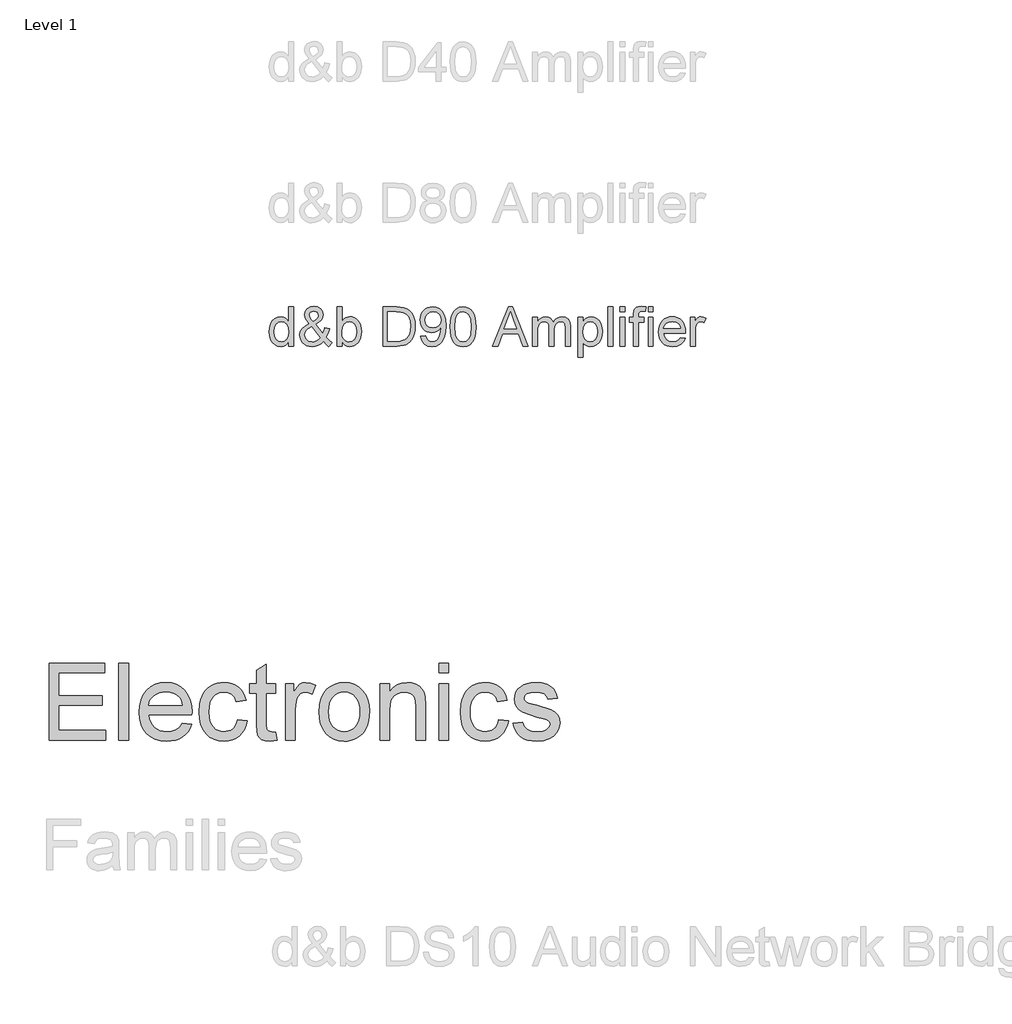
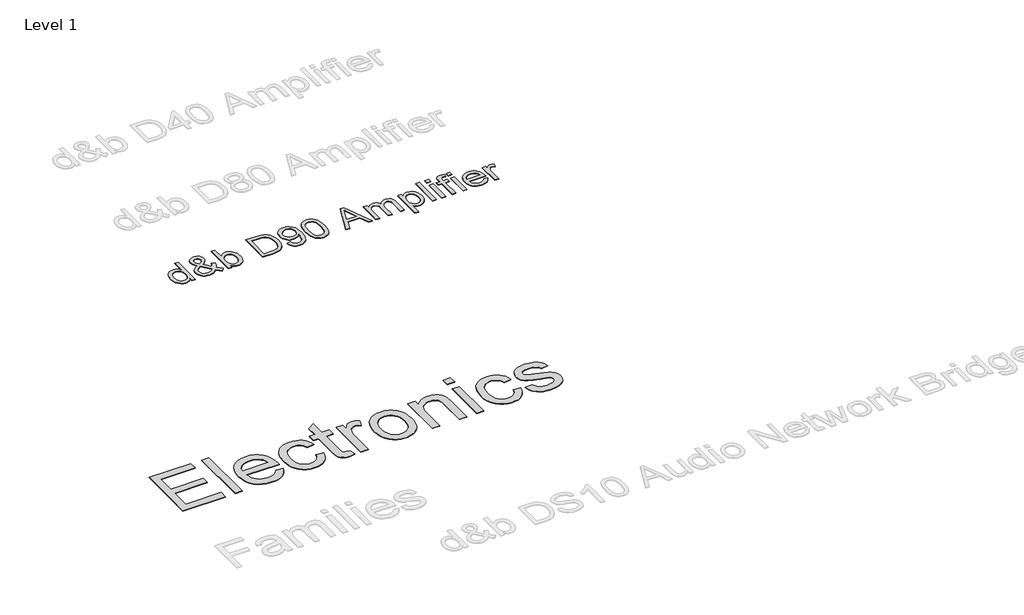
# One storey, part 5 of 14: 2 proxies.
"""IFC4 building model written with IfcOpenShell, lengths in millimetres."""

from ifc_helpers import new_model, si_unit, origin, origin_with_axes, place, context, project, spatial, polyline, outline, extrude, element, save

model = new_model("IFC4")

# Units and contexts
model_context = context("Model", 3, world=origin())
ifc_project = project(units=[si_unit("LENGTHUNIT", "METRE", prefix="MILLI")], contexts=[model_context])

# Site, building, storey
site = spatial("IfcSite", under=ifc_project)
building = spatial("IfcBuilding", under=site)
storey = spatial("IfcBuildingStorey", under=building, Name="Level 1", Elevation=0.0)

# Proxies
placement = place(None, origin())
element("IfcBuildingElementProxy", 1, Name="300mm Arial", ObjectType="300mm Arial", at=placement, inside=storey, context=model_context, shape_type="SweptSolid", body=[
    extrude(outline(polyline([(-19191.0990778, 6233.1412103), (-19191.0990778, 6268.678611), (-19202.3700624, 6251.070859), (-19216.0230829, 6238.4938933), (-19232.0581394, 6230.9477139), (-19250.4752318, 6228.4323207), (-19274.8290199, 6232.0743525), (-19297.1226688, 6243.0004477), (-19315.9950151, 6260.4472513), (-19330.0848956, 6283.6514082), (-19338.8588811, 6311.6748192), (-19341.783543, 6343.5793852), (-19339.0888074, 6375.0884781), (-19331.0046005, 6403.5441504), (-19317.5401195, 6427.3277214), (-19298.7045614, 6444.8205103), (-19275.9234688, 6455.5810586), (-19250.6223846, 6459.1679081), (-19232.1914966, 6456.6019312), (-19215.8943242, 6448.9040004), (-19202.0803553, 6437.1041854), (-19191.0990778, 6422.2325558), (-19191.0990778, 6534.5101407), (-19153.4279615, 6534.5101407), (-19153.4279615, 6233.1412103), (-19191.0990778, 6233.1412103)]), holes=[polyline([(-19304.1124267, 6343.726538), (-19299.8633896, 6309.6514682), (-19287.1162785, 6285.4172418), (-19268.5934201, 6270.9318882), (-19247.017141, 6266.103437), (-19225.4500591, 6270.711159), (-19207.3962502, 6284.534325), (-19195.1733709, 6307.8304523), (-19191.0990778, 6340.8570584), (-19195.2469473, 6376.9646763), (-19207.6905558, 6401.999046), (-19226.2042172, 6416.6223554), (-19248.5622454, 6421.4967918), (-19270.3592536, 6416.8154934), (-19288.2199245, 6402.7715982), (-19300.1393011, 6378.6477364), (-19304.1124267, 6343.726538)])]), origin_with_axes(), (0.0, 0.0, 1.0), 5.0),
    extrude(outline(polyline([(-18924.0903257, 6270.3708682), (-18943.2385835, 6252.0227537), (-18964.0423104, 6238.9169576), (-18986.5382944, 6231.0534799), (-19010.7633237, 6228.4323207), (-19032.744273, 6230.3728982), (-19052.3339892, 6236.1946308), (-19069.5324725, 6245.8975184), (-19084.3397228, 6259.4815611), (-19100.8392303, 6286.2817645), (-19106.3390661, 6316.061812), (-19101.9152851, 6342.4573451), (-19088.6439421, 6366.1673397), (-19066.5802195, 6387.1734016), (-19035.7792994, 6405.4571368), (-19062.0828621, 6443.5697115), (-19068.6679498, 6471.8230487), (-19063.4808136, 6497.2620887), (-19047.9194053, 6519.1326733), (-19024.5037163, 6534.197441), (-18995.7537383, 6539.2190302), (-18968.401712, 6534.4181702), (-18946.5311274, 6520.0155901), (-18932.1837296, 6498.8807695), (-18927.4012636, 6473.8831879), (-18930.9421278, 6452.8955201), (-18941.5647204, 6433.4897448), (-18959.2690415, 6415.6658622), (-18984.0550909, 6399.4238721), (-18929.5349792, 6331.5128558), (-18920.2459588, 6350.918631), (-18913.274595, 6373.230674), (-18875.6034787, 6365.0636937), (-18887.1917616, 6330.1700865), (-18902.2381352, 6303.0387893), (-18880.827403, 6278.0596019), (-18856.7679206, 6257.4214219), (-18885.0212578, 6228.4323207), (-18904.243092, 6246.0170801), (-18924.0903257, 6270.3708682)]), holes=[polyline([(-18949.3270305, 6297.5205594), (-19016.5758593, 6381.4712307), (-19042.2632196, 6365.0820878), (-19057.9625837, 6349.9069555), (-19065.9916083, 6335.4124049), (-19068.6679498, 6321.0650071), (-19065.0075239, 6303.2963067), (-19054.0262464, 6284.8654188), (-19036.3311224, 6270.7939325), (-19012.5291573, 6266.103437), (-18995.4870239, 6268.2923349), (-18977.9114616, 6274.8590285), (-18961.8442154, 6284.902207), (-18949.3270305, 6297.5205594)]), polyline([(-19003.1113782, 6423.189049), (-18983.4112974, 6435.6878398), (-18972.1357142, 6446.5495557), (-18966.8382135, 6457.116966), (-18965.0723799, 6468.73284), (-18967.3992336, 6481.8938183), (-18974.3797944, 6492.3876523), (-18984.8552342, 6499.2578485), (-18997.6667247, 6501.5479139), (-19010.7541267, 6499.2762426), (-19021.4686898, 6492.4612287), (-19028.6147976, 6482.3720649), (-19030.9968335, 6470.2779443), (-19027.7594719, 6456.4823695), (-19017.9738108, 6441.1416903), (-19003.1113782, 6423.189049)])]), origin_with_axes(), (0.0, 0.0, 1.0), 5.0),
    extrude(outline(polyline([(-18781.4256879, 6233.1412103), (-18819.0968043, 6233.1412103), (-18819.0968043, 6534.5101407), (-18781.4256879, 6534.5101407), (-18781.4256879, 6422.7475906), (-18769.0372618, 6438.6814795), (-18755.0485489, 6450.0628287), (-18739.4595493, 6456.8916382), (-18722.2702631, 6459.1679081), (-18702.8644879, 6457.116966), (-18684.5255704, 6450.9641396), (-18668.3019744, 6441.0957051), (-18655.2421636, 6427.8979385), (-18645.0058471, 6411.4995986), (-18637.252734, 6392.029444), (-18632.3691005, 6370.2968151), (-18630.7412227, 6347.1110524), (-18632.4265821, 6320.3568343), (-18637.4826603, 6296.8215836), (-18645.9094572, 6276.5053004), (-18657.706973, 6259.4079847), (-18671.8681305, 6245.8561317), (-18687.3858529, 6236.1762367), (-18704.2601402, 6230.3682997), (-18722.4909923, 6228.4323207), (-18740.2458971, 6230.9293198), (-18755.986648, 6238.4203169), (-18769.7132449, 6250.9053121), (-18781.4256879, 6268.3843054), (-18781.4256879, 6233.1412103)]), holes=[polyline([(-18781.4256879, 6345.3452188), (-18778.850514, 6313.9280964), (-18771.1249921, 6292.6645171), (-18761.9969201, 6281.0440446), (-18751.388123, 6272.743707), (-18739.298601, 6267.7635045), (-18725.7283539, 6266.103437), (-18703.986528, 6270.9962676), (-18685.4084872, 6285.6747592), (-18672.6613761, 6310.0469413), (-18668.412339, 6344.0208436), (-18672.4866321, 6378.4913866), (-18684.7095114, 6402.5876572), (-18702.708138, 6416.7695081), (-18724.1096731, 6421.4967918), (-18745.851499, 6416.6039613), (-18764.4295398, 6401.9254696), (-18777.1766509, 6377.9947459), (-18781.4256879, 6345.3452188)])]), origin_with_axes(), (0.0, 0.0, 1.0), 5.0),
    extrude(outline(polyline([(-18465.9300889, 6233.1412103), (-18465.9300889, 6534.5101407), (-18361.966637, 6534.5101407), (-18308.1822893, 6530.1691332), (-18284.1595951, 6521.7998178), (-18263.8892971, 6508.6112482), (-18243.0487821, 6485.6554117), (-18228.2047436, 6457.1077689), (-18219.3203934, 6423.5201428), (-18216.3589434, 6385.4443563), (-18218.3639002, 6353.0983318), (-18224.3787708, 6324.6334625), (-18233.5390325, 6300.399236), (-18244.9801626, 6280.7451404), (-18258.150338, 6265.2297173), (-18272.4977358, 6253.4115082), (-18288.9696522, 6244.6467197), (-18308.5133831, 6238.2915582), (-18356.9634419, 6233.1412103), (-18465.9300889, 6233.1412103)]), holes=[polyline([(-18428.2589726, 6270.8123266), (-18361.598755, 6270.8123266), (-18334.0259995, 6272.1734899), (-18313.1119081, 6276.2569801), (-18297.3297705, 6282.8236737), (-18285.1528765, 6291.6344475), (-18272.0654745, 6307.9408169), (-18262.2338282, 6329.0480464), (-18256.0810018, 6355.0481064), (-18254.0300597, 6386.0329675), (-18258.0491705, 6427.0885981), (-18270.1065028, 6457.4020745), (-18287.9211885, 6478.2241954), (-18309.2123589, 6490.8057597), (-18330.8806085, 6495.3307082), (-18362.6288246, 6496.8390244), (-18428.2589726, 6496.8390244), (-18428.2589726, 6270.8123266)])]), origin_with_axes(), (0.0, 0.0, 1.0), 5.0),
    extrude(outline(polyline([(-18173.9789375, 6308.4834429), (-18136.3078212, 6313.1923324), (-18129.8698863, 6291.8091914), (-18119.3852494, 6277.2502615), (-18105.111428, 6268.8901431), (-18087.3059394, 6266.103437), (-18071.3306638, 6267.8968618), (-18056.808522, 6273.2771359), (-18044.7419926, 6281.6556484), (-18036.1335539, 6292.4437879), (-18023.8095071, 6325.1852854), (-18018.3648535, 6368.8896665), (-18018.5855827, 6376.2473064), (-18031.6361965, 6360.318016), (-18048.7151182, 6347.6996636), (-18068.5899429, 6339.477501), (-18090.0282662, 6336.7367801), (-18107.923426, 6338.4106432), (-18124.3792475, 6343.4322324), (-18139.3957307, 6351.8015478), (-18152.9728756, 6363.5185893), (-18164.2231668, 6377.9717532), (-18172.2590892, 6394.5494356), (-18177.0806426, 6413.2516366), (-18178.687827, 6434.078356), (-18177.0024677, 6455.5994527), (-18171.9463895, 6474.9132575), (-18163.5195925, 6492.0197703), (-18151.7220768, 6506.9189911), (-18137.3861753, 6518.990119), (-18121.344221, 6527.6123533), (-18103.596214, 6532.7856939), (-18084.1421543, 6534.5101407), (-18056.0451669, 6530.5738034), (-18030.4681712, 6518.7647913), (-18009.0758332, 6499.6717158), (-17993.5328189, 6473.8831879), (-17984.0690545, 6438.2354226), (-17980.9144664, 6389.5646346), (-17984.0598575, 6337.9599877), (-17993.4960307, 6298.0723824), (-18009.1402125, 6268.0991968), (-18030.9096296, 6246.2378093), (-18057.8661828, 6232.8836929), (-18089.071773, 6228.4323207), (-18121.2798417, 6233.6838362), (-18146.9763991, 6249.4383826), (-18164.9474345, 6274.7026787), (-18173.9789375, 6308.4834429)]), holes=[polyline([(-18018.5855827, 6434.9612728), (-18022.6506788, 6460.4922833), (-18034.8459669, 6480.1371818), (-18053.7734956, 6492.6635638), (-18078.0353132, 6496.8390244), (-18103.1984416, 6492.341667), (-18123.358375, 6478.8495948), (-18136.6021268, 6458.2022179), (-18141.0167107, 6432.238946), (-18136.8412501, 6408.9612128), (-18124.3148682, 6390.4843396), (-18104.6515755, 6378.4270072), (-18079.0653828, 6374.4078964), (-18054.9967032, 6378.4270072), (-18035.6185191, 6390.4843396), (-18022.8438168, 6409.6417945), (-18018.5855827, 6434.9612728)])]), origin_with_axes(), (0.0, 0.0, 1.0), 5.0),
    extrude(outline(polyline([(-17947.9522397, 6381.3976543), (-17945.1839277, 6429.6361809), (-17936.8789916, 6468.1074406), (-17923.120205, 6497.4000444), (-17903.9903412, 6518.1026037), (-17879.3514446, 6530.4082565), (-17849.0655594, 6534.5101407), (-17825.8522055, 6532.0821195), (-17805.0668727, 6524.798056), (-17787.6844485, 6512.9430587), (-17774.6798199, 6496.8022362), (-17764.8573707, 6476.5135442), (-17757.0214842, 6452.2149384), (-17751.8895303, 6421.358836), (-17750.1788791, 6381.3976543), (-17752.9195999, 6333.4350392), (-17761.1417625, 6295.05575), (-17774.8177757, 6265.735555), (-17793.9200483, 6244.9502223), (-17818.6141272, 6232.5617961), (-17849.0655594, 6228.4323207), (-17869.8141039, 6230.2257454), (-17888.2082037, 6235.6060196), (-17904.2478586, 6244.5731433), (-17917.9330689, 6257.1271163), (-17931.0664561, 6279.8208369), (-17940.447447, 6308.0971668), (-17946.0760415, 6341.9561059), (-17947.9522397, 6381.3976543)]), holes=[polyline([(-17910.2811234, 6381.4712307), (-17905.8665394, 6322.2146383), (-17900.3483095, 6301.9466397), (-17892.6227876, 6287.9188393), (-17872.9043127, 6271.5572876), (-17849.0655594, 6266.103437), (-17825.2268061, 6271.5756817), (-17805.5083311, 6287.9924157), (-17797.7828092, 6302.0432087), (-17792.2645793, 6322.3066088), (-17787.8499954, 6381.4712307), (-17792.1174265, 6439.3942509), (-17797.4517154, 6459.5955709), (-17804.9197199, 6473.9567643), (-17824.6014067, 6491.1184594), (-17849.5070178, 6496.8390244), (-17873.0882537, 6491.7990411), (-17892.0341764, 6476.6790911), (-17900.0172157, 6461.0441063), (-17905.7193866, 6439.9644679), (-17910.2811234, 6381.4712307)])]), origin_with_axes(), (0.0, 0.0, 1.0), 5.0),
    extrude(outline(polyline([(-17620.3901112, 6233.1412103), (-17500.0926987, 6534.5101407), (-17468.0133888, 6534.5101407), (-17347.7895527, 6233.1412103), (-17387.5943846, 6233.1412103), (-17422.0281394, 6327.319001), (-17546.2251009, 6327.319001), (-17580.6588557, 6233.1412103), (-17620.3901112, 6233.1412103)]), holes=[polyline([(-17532.3927379, 6364.9901173), (-17435.786926, 6364.9901173), (-17463.0101936, 6439.0815512), (-17484.1266202, 6496.8390244), (-17502.8886019, 6445.5562743), (-17532.3927379, 6364.9901173)])]), origin_with_axes(), (0.0, 0.0, 1.0), 5.0),
    extrude(outline(polyline([(-17312.252152, 6233.1412103), (-17312.252152, 6454.4590186), (-17274.5810357, 6454.4590186), (-17274.5810357, 6418.038701), (-17263.2502702, 6434.7681348), (-17248.6821432, 6447.8739308), (-17231.3732954, 6456.3444138), (-17211.8203673, 6459.1679081), (-17190.8694877, 6456.2892315), (-17174.0756746, 6447.6532016), (-17161.5308986, 6433.8300357), (-17153.3271301, 6415.3899507), (-17139.5959346, 6434.542807), (-17123.9333587, 6448.2234187), (-17106.3394023, 6456.4317858), (-17086.8140654, 6459.1679081), (-17058.4963488, 6454.6153684), (-17037.5546662, 6440.9577493), (-17024.614417, 6417.8271689), (-17020.3010006, 6384.8557451), (-17020.3010006, 6233.1412103), (-17057.9721169, 6233.1412103), (-17057.9721169, 6368.6689373), (-17061.4669959, 6400.1228479), (-17066.3782205, 6408.7956659), (-17074.1221365, 6415.6106799), (-17084.0825415, 6420.0252638), (-17095.6432332, 6421.4967918), (-17116.0514869, 6417.7260013), (-17132.6889502, 6406.41363), (-17143.7530012, 6386.7871255), (-17147.4410182, 6358.0739358), (-17147.4410182, 6233.1412103), (-17185.1121345, 6233.1412103), (-17185.1121345, 6372.862792), (-17187.2918353, 6394.1631595), (-17193.8309378, 6409.3566859), (-17205.3364472, 6418.4617653), (-17222.4153688, 6421.4967918), (-17236.9283135, 6419.4734408), (-17250.300824, 6413.4033879), (-17261.3372839, 6403.4337858), (-17268.8420766, 6389.7117874), (-17273.1462959, 6370.6738942), (-17274.5810357, 6344.7566076), (-17274.5810357, 6233.1412103), (-17312.252152, 6233.1412103)])), origin_with_axes(), (0.0, 0.0, 1.0), 5.0),
    extrude(outline(polyline([(-16963.7943262, 6148.3811986), (-16963.7943262, 6454.4590186), (-16926.1232099, 6454.4590186), (-16926.1232099, 6417.5236662), (-16913.8359512, 6435.743022), (-16900.0771646, 6448.7568476), (-16884.0375096, 6456.565143), (-16864.9076459, 6459.1679081), (-16839.4318177, 6455.5258763), (-16817.1565629, 6444.5997811), (-16799.0199805, 6427.0518099), (-16785.9601697, 6403.5441504), (-16778.0691009, 6375.7874539), (-16775.4387446, 6345.4923716), (-16778.4093918, 6313.2751059), (-16787.3213331, 6284.4607486), (-16801.8894601, 6260.5116307), (-16821.8286642, 6242.8900831), (-16845.0512152, 6232.0467613), (-16869.4693826, 6228.4323207), (-16886.7874275, 6230.8511448), (-16902.2476684, 6238.1076172), (-16915.4822232, 6249.0613036), (-16926.1232099, 6262.5717699), (-16926.1232099, 6148.3811986), (-16963.7943262, 6148.3811986)]), holes=[polyline([(-16926.1232099, 6342.0342808), (-16922.0489168, 6308.2627137), (-16909.8260375, 6284.6446896), (-16891.7906227, 6270.7387502), (-16870.278723, 6266.103437), (-16848.4173354, 6270.9042971), (-16829.9220681, 6285.3068772), (-16817.3129127, 6309.789424), (-16813.109861, 6344.830184), (-16817.2117452, 6378.4178102), (-16829.5173979, 6402.366928), (-16847.5252216, 6416.7143258), (-16868.7336186, 6421.4967918), (-16890.0247891, 6416.4108232), (-16908.7223915, 6401.1529175), (-16921.7730053, 6376.2013211), (-16926.1232099, 6342.0342808)])]), origin_with_axes(), (0.0, 0.0, 1.0), 5.0),
    extrude(outline(polyline([(-16733.0587388, 6233.1412103), (-16733.0587388, 6534.5101407), (-16695.3876225, 6534.5101407), (-16695.3876225, 6233.1412103), (-16733.0587388, 6233.1412103)])), origin_with_axes(), (0.0, 0.0, 1.0), 5.0),
    extrude(outline(polyline([(-16638.880948, 6233.1412103), (-16638.880948, 6454.4590186), (-16601.2098317, 6454.4590186), (-16601.2098317, 6233.1412103), (-16638.880948, 6233.1412103)])), origin_with_axes(), (0.0, 0.0, 1.0), 5.0),
    extrude(outline(polyline([(-16638.880948, 6496.8390244), (-16638.880948, 6534.5101407), (-16601.2098317, 6534.5101407), (-16601.2098317, 6496.8390244), (-16638.880948, 6496.8390244)])), origin_with_axes(), (0.0, 0.0, 1.0), 5.0),
    extrude(outline(polyline([(-16535.2853782, 6233.1412103), (-16535.2853782, 6416.7879022), (-16568.247605, 6416.7879022), (-16568.247605, 6454.4590186), (-16535.2853782, 6454.4590186), (-16535.2853782, 6476.7526675), (-16531.3122526, 6508.1697898), (-16523.7338835, 6520.6961718), (-16512.0352361, 6530.6105916), (-16495.6644873, 6537.0669206), (-16474.0698142, 6539.2190302), (-16439.7096358, 6535.0987519), (-16445.2278658, 6499.7820804), (-16466.9329035, 6501.5479139), (-16481.2527102, 6499.9844155), (-16490.6612922, 6495.29392), (-16495.8760195, 6486.3359934), (-16497.6142619, 6471.9702015), (-16497.6142619, 6454.4590186), (-16455.234256, 6454.4590186), (-16455.234256, 6416.7879022), (-16497.6142619, 6416.7879022), (-16497.6142619, 6233.1412103), (-16535.2853782, 6233.1412103)])), origin_with_axes(), (0.0, 0.0, 1.0), 5.0),
    extrude(outline(polyline([(-16422.2720293, 6233.1412103), (-16422.2720293, 6454.4590186), (-16384.600913, 6454.4590186), (-16384.600913, 6233.1412103), (-16422.2720293, 6233.1412103)])), origin_with_axes(), (0.0, 0.0, 1.0), 5.0),
    extrude(outline(polyline([(-16422.2720293, 6496.8390244), (-16422.2720293, 6534.5101407), (-16384.600913, 6534.5101407), (-16384.600913, 6496.8390244), (-16422.2720293, 6496.8390244)])), origin_with_axes(), (0.0, 0.0, 1.0), 5.0),
    extrude(outline(polyline([(-16173.1423421, 6299.0656638), (-16136.2069898, 6294.3567743), (-16149.515121, 6266.5265013), (-16170.7511092, 6245.7227745), (-16199.4367077, 6232.7549342), (-16235.0936701, 6228.4323207), (-16258.4679724, 6230.2970226), (-16279.2946919, 6235.8911282), (-16297.5738285, 6245.2146375), (-16313.3053823, 6258.2675505), (-16325.9559244, 6274.6865838), (-16334.9920259, 6294.1084539), (-16340.4136868, 6316.5331608), (-16342.2209071, 6341.9607044), (-16340.3952927, 6368.2504715), (-16334.9184495, 6391.4224387), (-16325.7903775, 6411.4766059), (-16313.0110767, 6428.4129733), (-16297.3209096, 6441.8682573), (-16279.4602387, 6451.4791744), (-16259.4290641, 6457.2457247), (-16237.2273857, 6459.1679081), (-16215.7407779, 6457.2503232), (-16196.3097108, 6451.4975685), (-16178.9341843, 6441.909644), (-16163.6141985, 6428.4865497), (-16151.1085099, 6411.5869705), (-16142.1758752, 6391.5695915), (-16136.8162944, 6368.4344125), (-16135.0297674, 6342.1814336), (-16135.2504966, 6332.0278906), (-16304.5497908, 6332.0278906), (-16298.0290825, 6303.8297356), (-16282.8815413, 6283.0995852), (-16261.0201537, 6270.3524741), (-16234.3579061, 6266.103437), (-16214.3083374, 6268.0716057), (-16197.4225538, 6273.9761117), (-16183.7005554, 6284.1848371), (-16173.1423421, 6299.0656638)]), holes=[polyline([(-16304.5497908, 6369.6990069), (-16172.7008837, 6369.6990069), (-16177.7960494, 6389.6014228), (-16187.7840455, 6403.838456), (-16209.7466007, 6417.0822078), (-16237.3745385, 6421.4967918), (-16262.7675932, 6417.9743217), (-16283.7644581, 6407.4069114), (-16298.3601763, 6390.934995), (-16304.5497908, 6369.6990069)])]), origin_with_axes(), (0.0, 0.0, 1.0), 5.0),
    extrude(outline(polyline([(-16097.3586511, 6233.1412103), (-16097.3586511, 6454.4590186), (-16064.3964244, 6454.4590186), (-16064.3964244, 6421.717521), (-16052.2195303, 6440.7002319), (-16040.9991295, 6451.8838446), (-16029.7419404, 6457.3468922), (-16017.4546818, 6459.1679081), (-15998.6927, 6456.2616403), (-15979.6364127, 6447.542837), (-15992.2179769, 6413.7712699), (-16005.4617287, 6419.5654113), (-16018.7054806, 6421.4967918), (-16029.9534726, 6419.6389877), (-16040.0058481, 6414.0655755), (-16048.1268431, 6405.1996194), (-16053.5806937, 6393.4641838), (-16058.1608245, 6372.4213336), (-16059.6875348, 6349.4654971), (-16059.6875348, 6233.1412103), (-16097.3586511, 6233.1412103)])), origin_with_axes(), (0.0, 0.0, 1.0), 5.0),
])
element("IfcBuildingElementProxy", 2, Name="600mm Arial", ObjectType="600mm Arial", at=placement, inside=storey, context=model_context, shape_type="SweptSolid", body=[
    extrude(outline(polyline([(-21034.9539913, 3200.0884774), (-21034.9539913, 3790.8577082), (-20610.3386067, 3790.8577082), (-20610.3386067, 3717.0115544), (-20961.1078374, 3717.0115544), (-20961.1078374, 3541.626939), (-20628.8001451, 3541.626939), (-20628.8001451, 3467.7807851), (-20961.1078374, 3467.7807851), (-20961.1078374, 3273.9346313), (-20601.1078374, 3273.9346313), (-20601.1078374, 3200.0884774), (-21034.9539913, 3200.0884774)])), origin_with_axes(), (0.0, 0.0, 1.0), 5.0),
    extrude(outline(polyline([(-20499.5693759, 3200.0884774), (-20499.5693759, 3790.8577082), (-20425.723222, 3790.8577082), (-20425.723222, 3200.0884774), (-20499.5693759, 3200.0884774)])), origin_with_axes(), (0.0, 0.0, 1.0), 5.0),
    extrude(outline(polyline([(-20011.2039913, 3329.3192467), (-19938.8001451, 3320.0884774), (-19949.9014071, 3291.0890784), (-19964.8878855, 3265.533189), (-19983.7595802, 3243.4208092), (-20006.5164913, 3224.751939), (-20032.9242437, 3209.923213), (-20062.7484624, 3199.3312659), (-20095.9891475, 3192.9760976), (-20132.646299, 3190.8577082), (-20178.4666115, 3194.5130568), (-20219.2929336, 3205.4791024), (-20255.1252653, 3223.7558452), (-20285.9636067, 3249.3432851), (-20310.7622845, 3281.5292827), (-20328.4756259, 3319.6016986), (-20339.1036307, 3363.5605327), (-20342.646299, 3413.4057851), (-20339.067573, 3464.9412419), (-20328.3313951, 3510.3649197), (-20310.4377653, 3549.6768188), (-20285.3866836, 3582.876939), (-20254.629472, 3609.2531409), (-20219.6174528, 3628.0932851), (-20180.3506259, 3639.3973717), (-20136.8289913, 3643.1654005), (-20094.7090994, 3639.4063861), (-20056.6186547, 3628.1293428), (-20022.5576571, 3609.3342707), (-19992.5261067, 3583.0211697), (-19968.0113831, 3549.8931649), (-19950.5008663, 3510.6533813), (-19939.9945562, 3465.3018188), (-19936.4924528, 3413.8384774), (-19936.9251451, 3393.9346313), (-20268.8001451, 3393.9346313), (-20264.5228014, 3364.4664822), (-20256.0176932, 3338.658189), (-20243.2848206, 3316.5097515), (-20226.3241836, 3298.0211697), (-20206.0732821, 3283.4448476), (-20183.4696163, 3273.033189), (-20158.513186, 3266.7861938), (-20131.2039913, 3264.703862), (-20091.9011067, 3268.5620351), (-20058.8001451, 3280.1365544), (-20031.9011067, 3300.1485736), (-20011.2039913, 3329.3192467)]), holes=[polyline([(-20268.8001451, 3467.7807851), (-20010.3386067, 3467.7807851), (-20020.3265874, 3506.7952082), (-20028.9173326, 3522.1377563), (-20039.9059143, 3534.703862), (-20060.0441355, 3549.8480928), (-20082.958799, 3560.6654005), (-20108.6499047, 3567.1557851), (-20137.1174528, 3569.3192467), (-20163.0834985, 3567.5929846), (-20186.895097, 3562.4141986), (-20208.5522485, 3553.7828885), (-20228.0549528, 3541.6990544), (-20244.4206379, 3526.7215904), (-20256.6667317, 3509.4093909), (-20264.7932341, 3489.7624558), (-20268.8001451, 3467.7807851)])]), origin_with_axes(), (0.0, 0.0, 1.0), 5.0),
    extrude(outline(polyline([(-19585.723222, 3357.0115544), (-19511.8770682, 3347.7807851), (-19519.9089192, 3312.9355327), (-19532.4660105, 3282.1016986), (-19549.5483422, 3255.2792827), (-19571.1559143, 3232.4682851), (-19596.3782701, 3214.2636577), (-19624.3049528, 3201.2603524), (-19654.9359624, 3193.4583693), (-19688.271299, 3190.8577082), (-19729.6880658, 3194.4860135), (-19766.8229817, 3205.3709294), (-19799.6760466, 3223.5124558), (-19828.2472605, 3248.9105928), (-19851.3737629, 3281.087576), (-19867.8926932, 3319.5656409), (-19877.8040514, 3364.3447875), (-19881.1078374, 3415.4250159), (-19875.4648086, 3481.1401601), (-19868.4110225, 3510.711975), (-19858.535722, 3538.0932851), (-19845.771299, 3562.7342106), (-19830.0501451, 3584.0848717), (-19811.3722605, 3602.1452683), (-19789.7376451, 3616.9154005), (-19766.1243639, 3628.3997755), (-19741.5104817, 3636.6029005), (-19715.8959985, 3641.5247755), (-19689.2809143, 3643.1654005), (-19656.5179937, 3640.9117947), (-19626.8830778, 3634.1509774), (-19600.3761667, 3622.8829486), (-19576.9972605, 3607.1077082), (-19557.1429937, 3587.1858332), (-19541.2100009, 3563.4779005), (-19529.1982821, 3535.9839101), (-19521.1078374, 3504.703862), (-19594.9539913, 3495.4730928), (-19608.349424, 3527.6906409), (-19629.208799, 3550.7855928), (-19656.3782701, 3564.6858332), (-19688.7039913, 3569.3192467), (-19713.7956379, 3567.0385976), (-19736.426347, 3560.1966505), (-19756.5961187, 3548.7934053), (-19774.3049528, 3532.828862), (-19788.7235225, 3511.9334294), (-19799.0225009, 3485.7375159), (-19805.2018879, 3454.2411217), (-19807.2616836, 3417.4442467), (-19805.24696, 3380.0929846), (-19799.2027893, 3348.2315063), (-19789.1291716, 3321.8598116), (-19775.0261067, 3300.9779005), (-19757.668835, 3285.1080087), (-19737.832597, 3273.7723717), (-19715.5173927, 3266.9709895), (-19690.723222, 3264.703862), (-19652.4840393, 3270.3649197), (-19635.9470802, 3277.4412419), (-19621.1318759, 3287.3480928), (-19608.4530898, 3300.1936457), (-19598.3253855, 3316.0860736), (-19590.7487629, 3335.0253765), (-19585.723222, 3357.0115544)])), origin_with_axes(), (0.0, 0.0, 1.0), 5.0),
    extrude(outline(polyline([(-19290.3386067, 3261.6750159), (-19281.1078374, 3197.9250159), (-19336.348222, 3190.8577082), (-19371.7929336, 3193.922612), (-19398.223222, 3203.1173236), (-19416.9011067, 3217.2879967), (-19429.0886067, 3235.2807851), (-19435.7953374, 3266.1822274), (-19438.0309143, 3319.078862), (-19438.0309143, 3560.0884774), (-19493.4155297, 3560.0884774), (-19493.4155297, 3633.9346313), (-19438.0309143, 3633.9346313), (-19438.0309143, 3739.3673236), (-19364.1847605, 3782.7807851), (-19364.1847605, 3633.9346313), (-19290.3386067, 3633.9346313), (-19290.3386067, 3560.0884774), (-19364.1847605, 3560.0884774), (-19364.1847605, 3321.2423236), (-19360.2905297, 3283.1654005), (-19347.6703374, 3269.6798236), (-19337.0152893, 3265.9478524), (-19322.5020682, 3264.703862), (-19290.3386067, 3261.6750159)])), origin_with_axes(), (0.0, 0.0, 1.0), 5.0),
    extrude(outline(polyline([(-19216.4924528, 3200.0884774), (-19216.4924528, 3633.9346313), (-19151.8770682, 3633.9346313), (-19151.8770682, 3569.751939), (-19128.0068759, 3606.9634774), (-19106.0116836, 3628.8865544), (-19083.9443759, 3639.595689), (-19059.8578374, 3643.1654005), (-19023.0789913, 3637.4682851), (-18985.723222, 3620.376939), (-19010.3866836, 3554.1750159), (-19036.348222, 3565.533189), (-19062.3097605, 3569.3192467), (-19084.3590393, 3565.6774197), (-19104.0645682, 3554.751939), (-19119.9840393, 3537.3721313), (-19130.6751451, 3514.3673236), (-19139.6535105, 3473.1173236), (-19142.646299, 3428.1173236), (-19142.646299, 3200.0884774), (-19216.4924528, 3200.0884774)])), origin_with_axes(), (0.0, 0.0, 1.0), 5.0),
    extrude(outline(polyline([(-18958.0309143, 3417.0115544), (-18954.0375249, 3473.1984534), (-18942.0573567, 3521.6149197), (-18922.0904095, 3562.2609534), (-18894.1366836, 3595.1365544), (-18865.9936547, 3616.1491745), (-18834.9299528, 3631.158189), (-18800.9455778, 3640.1635976), (-18764.0405297, 3643.1654005), (-18723.2998446, 3639.510052), (-18686.4624047, 3628.5440063), (-18653.52821, 3610.2672635), (-18624.4972605, 3584.6798236), (-18600.8028494, 3552.6470712), (-18583.8782701, 3515.0343909), (-18573.7235225, 3471.8417827), (-18570.3386067, 3423.0692467), (-18571.8350009, 3383.5410015), (-18576.3241836, 3348.4658813), (-18583.8061547, 3317.8438861), (-18594.2809143, 3291.6750159), (-18607.6177533, 3269.07135), (-18623.6859624, 3249.1449678), (-18642.4855417, 3231.8958693), (-18664.0164913, 3217.3240544), (-18687.4404696, 3205.7450279), (-18711.9191355, 3197.4742947), (-18737.4524889, 3192.5118548), (-18764.0405297, 3190.8577082), (-18805.3761667, 3194.4995351), (-18842.5561547, 3205.4250159), (-18875.5804937, 3223.6341505), (-18904.4491836, 3249.126939), (-18927.8911908, 3281.470689), (-18944.6354817, 3320.2327082), (-18954.6820562, 3365.4129967), (-18958.0309143, 3417.0115544)]), holes=[polyline([(-18884.1847605, 3417.1557851), (-18882.0483422, 3381.336975), (-18875.6390874, 3350.3228524), (-18864.9569961, 3324.1134173), (-18850.0020682, 3302.7086697), (-18831.8109624, 3286.0815664), (-18811.4203374, 3274.205064), (-18788.8301932, 3267.0791625), (-18764.0405297, 3264.703862), (-18739.3770682, 3267.0926842), (-18716.8770682, 3274.2591505), (-18696.5405297, 3286.2032611), (-18678.3674528, 3302.9250159), (-18663.4125249, 3324.5416024), (-18652.7304336, 3351.1702082), (-18646.3211788, 3382.8108332), (-18644.1847605, 3419.4634774), (-18646.3347004, 3454.1464702), (-18652.7845201, 3484.3492947), (-18663.5342196, 3510.071951), (-18678.583799, 3531.314439), (-18696.8244841, 3547.9415423), (-18717.1475009, 3559.8180447), (-18739.5528494, 3566.9439462), (-18764.0405297, 3569.3192467), (-18788.8301932, 3566.9529606), (-18811.4203374, 3559.8541024), (-18831.8109624, 3548.0226721), (-18850.0020682, 3531.4586697), (-18864.9569961, 3510.1170231), (-18875.6390874, 3483.9526601), (-18882.0483422, 3452.9655808), (-18884.1847605, 3417.1557851)])]), origin_with_axes(), (0.0, 0.0, 1.0), 5.0),
    extrude(outline(polyline([(-18487.2616836, 3200.0884774), (-18487.2616836, 3633.9346313), (-18413.4155297, 3633.9346313), (-18413.4155297, 3573.3577082), (-18387.7604817, 3603.8985736), (-18356.9491836, 3625.7134774), (-18320.9816355, 3638.8024197), (-18279.8578374, 3643.1654005), (-18243.457597, 3639.6497755), (-18210.1222605, 3629.1029005), (-18182.3217797, 3612.8408813), (-18162.5261067, 3592.1798236), (-18149.0946163, 3567.173814), (-18140.3866836, 3537.876939), (-18136.4924528, 3466.4827082), (-18136.4924528, 3200.0884774), (-18210.3386067, 3200.0884774), (-18210.3386067, 3456.5307851), (-18212.4660105, 3494.7158813), (-18218.848222, 3521.8673236), (-18230.6210586, 3541.3204486), (-18248.9203374, 3556.4105928), (-18272.3758663, 3566.0920832), (-18299.6174528, 3569.3192467), (-18322.0408302, 3567.5073476), (-18342.8686547, 3562.0716505), (-18362.1009264, 3553.0121553), (-18379.7376451, 3540.328862), (-18394.4717196, 3522.579463), (-18404.9960586, 3498.3216505), (-18411.3106619, 3467.5554245), (-18413.4155297, 3430.2807851), (-18413.4155297, 3200.0884774), (-18487.2616836, 3200.0884774)])), origin_with_axes(), (0.0, 0.0, 1.0), 5.0),
    extrude(outline(polyline([(-18034.9539913, 3717.0115544), (-18034.9539913, 3790.8577082), (-17961.1078374, 3790.8577082), (-17961.1078374, 3717.0115544), (-18034.9539913, 3717.0115544)])), origin_with_axes(), (0.0, 0.0, 1.0), 5.0),
    extrude(outline(polyline([(-18034.9539913, 3200.0884774), (-18034.9539913, 3633.9346313), (-17961.1078374, 3633.9346313), (-17961.1078374, 3200.0884774), (-18034.9539913, 3200.0884774)])), origin_with_axes(), (0.0, 0.0, 1.0), 5.0),
    extrude(outline(polyline([(-17573.4155297, 3357.0115544), (-17499.5693759, 3347.7807851), (-17507.6012268, 3312.9355327), (-17520.1583182, 3282.1016986), (-17537.2406499, 3255.2792827), (-17558.848222, 3232.4682851), (-17584.0705778, 3214.2636577), (-17611.9972605, 3201.2603524), (-17642.6282701, 3193.4583693), (-17675.9636067, 3190.8577082), (-17717.3803735, 3194.4860135), (-17754.5152893, 3205.3709294), (-17787.3683542, 3223.5124558), (-17815.9395682, 3248.9105928), (-17839.0660706, 3281.087576), (-17855.5850009, 3319.5656409), (-17865.4963591, 3364.3447875), (-17868.8001451, 3415.4250159), (-17863.1571163, 3481.1401601), (-17856.1033302, 3510.711975), (-17846.2280297, 3538.0932851), (-17833.4636067, 3562.7342106), (-17817.7424528, 3584.0848717), (-17799.0645682, 3602.1452683), (-17777.4299528, 3616.9154005), (-17753.8166716, 3628.3997755), (-17729.2027893, 3636.6029005), (-17703.5883062, 3641.5247755), (-17676.973222, 3643.1654005), (-17644.2103014, 3640.9117947), (-17614.5753855, 3634.1509774), (-17588.0684744, 3622.8829486), (-17564.6895682, 3607.1077082), (-17544.8353014, 3587.1858332), (-17528.9023086, 3563.4779005), (-17516.8905898, 3535.9839101), (-17508.8001451, 3504.703862), (-17582.646299, 3495.4730928), (-17596.0417317, 3527.6906409), (-17616.9011067, 3550.7855928), (-17644.0705778, 3564.6858332), (-17676.396299, 3569.3192467), (-17701.4879456, 3567.0385976), (-17724.1186547, 3560.1966505), (-17744.2884264, 3548.7934053), (-17761.9972605, 3532.828862), (-17776.4158302, 3511.9334294), (-17786.7148086, 3485.7375159), (-17792.8941956, 3454.2411217), (-17794.9539913, 3417.4442467), (-17792.9392677, 3380.0929846), (-17786.895097, 3348.2315063), (-17776.8214792, 3321.8598116), (-17762.7184143, 3300.9779005), (-17745.3611427, 3285.1080087), (-17725.5249047, 3273.7723717), (-17703.2097004, 3266.9709895), (-17678.4155297, 3264.703862), (-17640.176347, 3270.3649197), (-17623.6393879, 3277.4412419), (-17608.8241836, 3287.3480928), (-17596.1453975, 3300.1936457), (-17586.0176932, 3316.0860736), (-17578.4410706, 3335.0253765), (-17573.4155297, 3357.0115544)])), origin_with_axes(), (0.0, 0.0, 1.0), 5.0),
    extrude(outline(polyline([(-17462.646299, 3329.3192467), (-17388.8001451, 3338.5500159), (-17384.3380057, 3321.7110736), (-17377.1535105, 3306.9634774), (-17367.2466595, 3294.3072274), (-17354.6174528, 3283.7423236), (-17339.2298326, 3275.4129967), (-17321.0477413, 3269.4634774), (-17276.3001451, 3264.703862), (-17232.0934143, 3269.0668428), (-17214.911924, 3274.5205688), (-17201.0116836, 3282.1557851), (-17182.6222605, 3301.1221313), (-17176.4924528, 3323.1173236), (-17178.0339192, 3333.0872755), (-17182.6583182, 3341.939439), (-17201.1559143, 3356.2904005), (-17228.8121643, 3365.6654005), (-17277.1655297, 3377.3480928), (-17344.5573567, 3396.8372755), (-17388.3674528, 3413.4779005), (-17416.5104817, 3431.6329486), (-17436.9011067, 3455.6654005), (-17449.286924, 3484.0428044), (-17453.4155297, 3515.2327082), (-17450.098222, 3543.844487), (-17440.146299, 3570.2567467), (-17424.4612028, 3593.423814), (-17403.9443759, 3612.3000159), (-17383.5537509, 3624.1810255), (-17356.9972605, 3634.1509774), (-17326.2941355, 3640.9117947), (-17293.4636067, 3643.1654005), (-17245.3987028, 3639.5416024), (-17203.6078374, 3628.6702082), (-17170.0020682, 3611.6149197), (-17146.4924528, 3589.439439), (-17130.9155297, 3560.5031409), (-17121.1078374, 3523.1654005), (-17194.9539913, 3513.9346313), (-17204.2749047, 3537.173814), (-17222.7184143, 3554.6798236), (-17250.4648086, 3565.6593909), (-17287.6943759, 3569.3192467), (-17330.098222, 3565.8216505), (-17358.3674528, 3555.328862), (-17374.2688951, 3540.1846313), (-17379.5693759, 3522.7327082), (-17377.3698567, 3511.3745351), (-17370.771299, 3501.2423236), (-17359.4852413, 3492.1918428), (-17343.223222, 3484.9442467), (-17279.6174528, 3469.2230928), (-17171.2280297, 3434.4634774), (-17142.598222, 3417.8408813), (-17120.8914913, 3395.0884774), (-17107.207597, 3366.1341505), (-17102.646299, 3330.9057851), (-17108.0008663, 3294.4875159), (-17124.0645682, 3260.2327082), (-17150.224424, 3230.8276601), (-17185.8674528, 3208.9586697), (-17228.9203374, 3195.3829486), (-17277.3097605, 3190.8577082), (-17317.0543518, 3193.0391986), (-17351.7688951, 3199.5836697), (-17381.4533903, 3210.4911217), (-17406.1078374, 3225.7615544), (-17426.2460586, 3245.3228524), (-17442.3818759, 3269.1029005), (-17454.5152893, 3297.1016986), (-17462.646299, 3329.3192467)])), origin_with_axes(), (0.0, 0.0, 1.0), 5.0),
])

save(model, "model.ifc")
